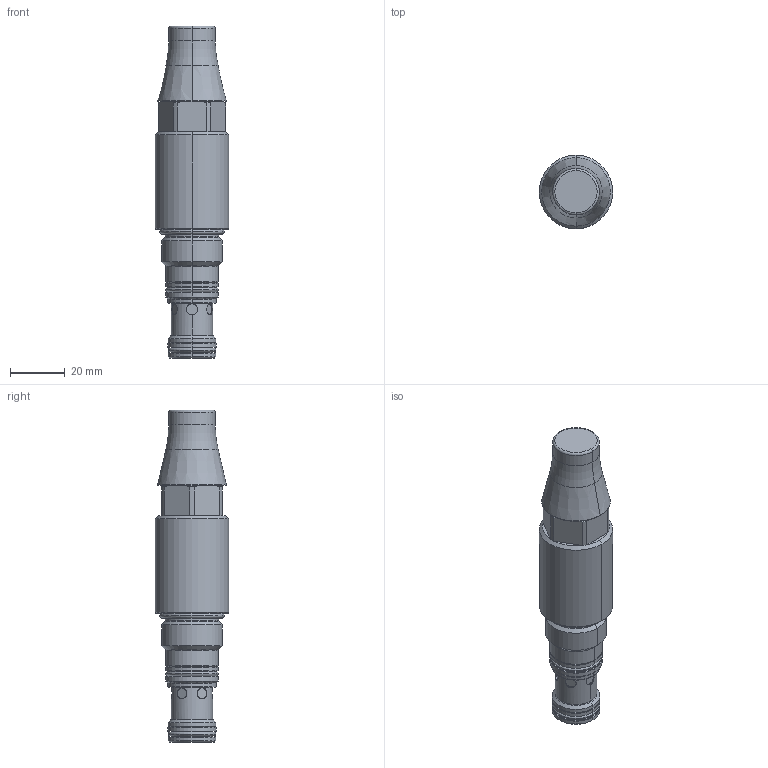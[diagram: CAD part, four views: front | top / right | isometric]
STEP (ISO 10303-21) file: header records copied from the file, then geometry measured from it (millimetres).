
FILE_DESCRIPTION((''),'2;1');
FILE_NAME('5619061_C','2022-09-08T10:36:14',('JB5'),(''),'CREO PARAMETRIC BY PTC INC, 2021424','CREO PARAMETRIC BY PTC INC, 2021424','');
FILE_SCHEMA(('CONFIG_CONTROL_DESIGN'));
Length unit declared in the file: millimetre
Products named in the file (1): 5619061_C
Bounding box: 26.8 x 26.8 x 121 mm (x, y, z)
Volume: 45633.1 mm3; surface area: 10225.7 mm2
Topology: 1 solids, 1 shells, 156 faces, 339 edges, 208 vertices
Faces by surface type: cylinder 56, plane 40, cone 28, torus 26, revolution 6
Entity records: 4589 total; most frequent: CARTESIAN_POINT 1031, DIRECTION 811, ORIENTED_EDGE 678, AXIS2_PLACEMENT_3D 350, EDGE_CURVE 339, VERTEX_POINT 208, CIRCLE 198, EDGE_LOOP 179
